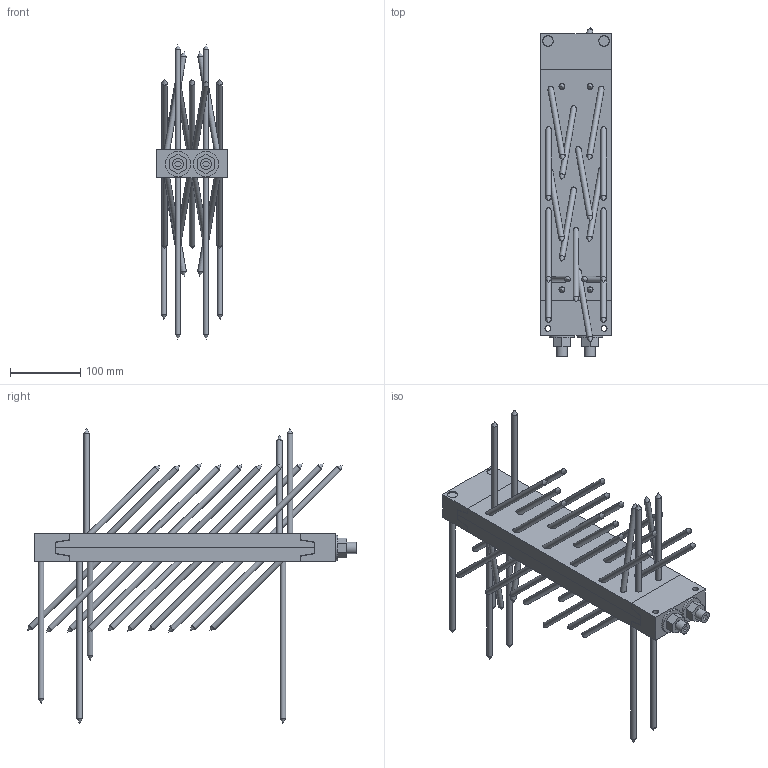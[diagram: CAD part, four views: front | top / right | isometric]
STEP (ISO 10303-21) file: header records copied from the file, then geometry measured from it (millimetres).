
FILE_DESCRIPTION(/* description */ ('Unknown'),/* implementation_level */ '2;1');
FILE_NAME(/* name */ 'MEGANT_430x100x40_Verdeckt',/* time_stamp */ '2020-05-05T17:14:09+02:00',/* author */ ('Unknown'),/* organization */ ('Unknown'),/* preprocessor_version */ 'ST-DEVELOPER v16.7',/* originating_system */ 'DEX',/* authorisation */ $);
FILE_SCHEMA (('AUTOMOTIVE_DESIGN {1 0 10303 214 3 1 1}'));
Length unit declared in the file: millimetre
Products named in the file (13): MEGANT_430x100x40_Verdeckt; Verbinderplatte_370x100x20_NT; Verbinderplatte_370x100x20; SK_Schraube_8x240; SK_Schraube_8x160; Verbinderplatte_370x100x20_HT; Spannbacke_oben_100x50x40; Spannbacke_unten_100x50x40_NT; Spannbacke_unten_100x50x40; Gewindestange_M16_L460; Beilagscheibe_M16; Mutter_M16
Assembly tree (56 placements, depth 3):
  MEGANT_430x100x40_Verdeckt
    Verbinderplatte_370x100x20_NT
      Verbinderplatte_370x100x20
      SK_Schraube_8x240  x4
      SK_Schraube_8x160  x17
    Verbinderplatte_370x100x20_HT
      Verbinderplatte_370x100x20
      SK_Schraube_8x160  x21
    Spannbacke_oben_100x50x40
    Spannbacke_unten_100x50x40_NT
      Spannbacke_unten_100x50x40
      SK_Schraube_8x240  x2
    Gewindestange_M16_L460  x2
      Gewindestange_M16_L460
      Beilagscheibe_M16
      Mutter_M16
Bounding box: 100 x 469.47 x 420 mm (x, y, z)
Volume: 1937772.5 mm3; surface area: 540310.1 mm2
Topology: 54 solids, 54 shells, 560 faces, 1314 edges, 832 vertices
Faces by surface type: plane 226, cylinder 200, cone 134
Full cylindrical faces by diameter (mm): 8 x44, 8.5 x46, 13.835 x2, 14 x2, 15 x90, 16 x2, 17 x4, 36 x2
Entity records: 6244 total; most frequent: DIRECTION 1040, CARTESIAN_POINT 946, ORIENTED_EDGE 776, AXIS2_PLACEMENT_3D 396, EDGE_CURVE 388, FACE_BOUND 358, EDGE_LOOP 356, VERTEX_POINT 302
